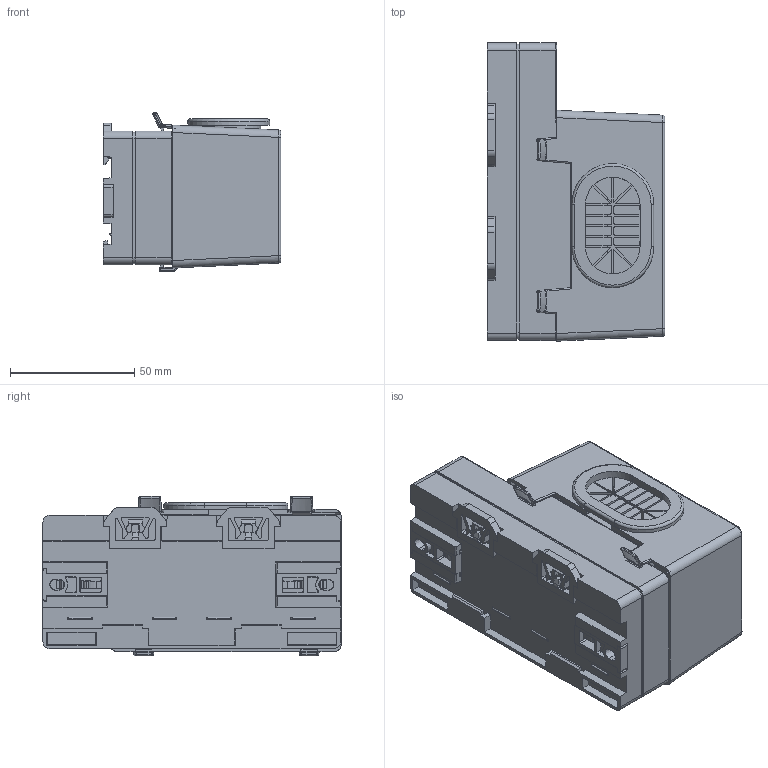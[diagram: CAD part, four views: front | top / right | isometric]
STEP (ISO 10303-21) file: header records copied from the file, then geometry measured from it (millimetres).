
FILE_DESCRIPTION((''),'2;1');
FILE_NAME('ASM0002_ASM','2026-08-24T14:51:24',('Admin'),(''),'CREO PARAMETRIC BY PTC INC, 2022073','CREO PARAMETRIC BY PTC INC, 2022073','');
FILE_SCHEMA(('CONFIG_CONTROL_DESIGN'));
Products named in the file (12): EI-16_STP-1_ASM0003_ASM_4-44724; EI-16_STP-1_ASM0003_ASM_4-45150; EI-16_STP-1_ASM0003_ASM_-123193; EI-16_STP-1_ASM0003_ASM_-128156; NONE; EI-16_STP-1_ASM0003_ASM_-211082; EI-16_STP-1_ASM0003_ASM_-211493; EI-16_ASM; EC-16_ASM; PRT0001; PRT0002; ASM0002_ASM
Assembly tree (11 placements, depth 4):
  ASM0002_ASM
    EC-16_ASM
      EI-16_ASM
        EI-16_STP-1_ASM0003_ASM_4-44724
        EI-16_STP-1_ASM0003_ASM_4-45150
        EI-16_STP-1_ASM0003_ASM_-123193
        EI-16_STP-1_ASM0003_ASM_-128156
        NONE
        EI-16_STP-1_ASM0003_ASM_-211082
        EI-16_STP-1_ASM0003_ASM_-211493
    PRT0001
    PRT0002
Bounding box: 71.6 x 120.21 x 64.43 mm (x, y, z)
Volume: 194855.6 mm3; surface area: 120990.7 mm2
Topology: 9 solids, 58 shells, 7561 faces, 21115 edges, 13641 vertices
Faces by surface type: plane 4954, cylinder 1837, bspline 317, cone 236, torus 139, sphere 60, extrusion 18
Entity records: 258378 total; most frequent: CARTESIAN_POINT 65693, ORIENTED_EDGE 41900, DIRECTION 37652, EDGE_CURVE 20950, VECTOR 15474, LINE 15456, VERTEX_POINT 13593, AXIS2_PLACEMENT_3D 11089
